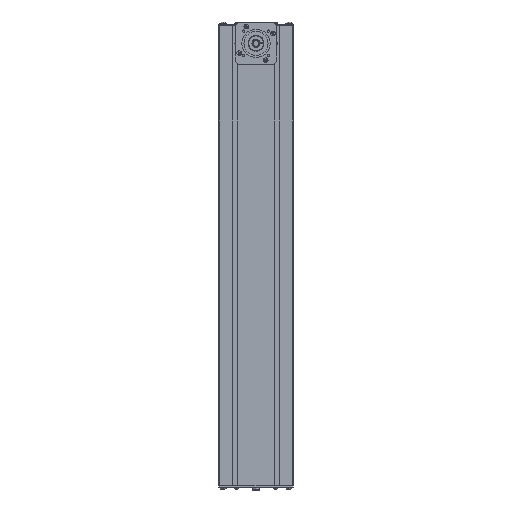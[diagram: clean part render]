
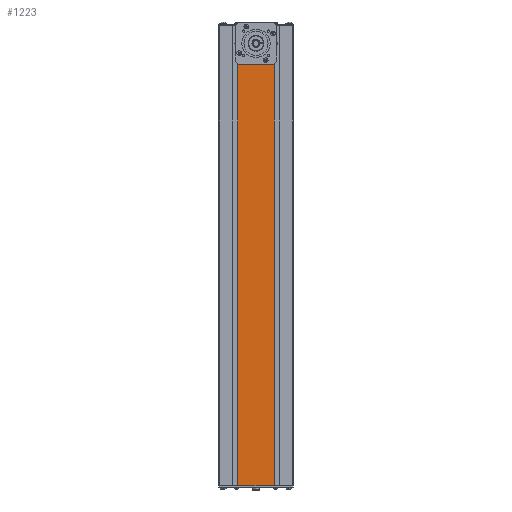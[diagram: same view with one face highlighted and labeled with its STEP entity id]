
A CAD part, front view. The second image highlights one B-rep face of the part: STEP entity #1223.
In plain terms, the highlighted planar face has unit normal (0, -1, 0).
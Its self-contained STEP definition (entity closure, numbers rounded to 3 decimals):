
#371 = EDGE_CURVE ( 'NONE', #35767, #71398, #74274, .T. ) ;
#415 = ORIENTED_EDGE ( 'NONE', *, *, #44515, .F. ) ;
#604 = AXIS2_PLACEMENT_3D ( 'NONE', #58166, #33646, #76738 ) ;
#1223 = ADVANCED_FACE ( 'NONE', ( #37323, #20967, #6510, #4618, #68207, #51799 ), #8905, .T. ) ;
#1279 = EDGE_LOOP ( 'NONE', ( #42935, #32923 ) ) ;
#2020 = CARTESIAN_POINT ( 'NONE',  ( -39.95, 0., -497. ) ) ;
#2255 = CARTESIAN_POINT ( 'NONE',  ( 30.05, 0., 489.05 ) ) ;
#3611 = DIRECTION ( 'NONE',  ( 0., 0., -1. ) ) ;
#4618 = FACE_BOUND ( 'NONE', #41595, .T. ) ;
#5099 = CARTESIAN_POINT ( 'NONE',  ( -30.05, 0., 489.05 ) ) ;
#6321 = EDGE_CURVE ( 'NONE', #37317, #72720, #79158, .T. ) ;
#6510 = FACE_BOUND ( 'NONE', #43114, .T. ) ;
#6987 = CARTESIAN_POINT ( 'NONE',  ( -39.95, 0., 497. ) ) ;
#7868 = CARTESIAN_POINT ( 'NONE',  ( 30.05, 0., 428.95 ) ) ;
#8193 = DIRECTION ( 'NONE',  ( 0., 0., 1. ) ) ;
#8425 = DIRECTION ( 'NONE',  ( 0., 0., -1. ) ) ;
#8587 = LINE ( 'NONE', #20086, #41255 ) ;
#8905 = PLANE ( 'NONE',  #604 ) ;
#9861 = ORIENTED_EDGE ( 'NONE', *, *, #25204, .F. ) ;
#10977 = EDGE_CURVE ( 'NONE', #37317, #16120, #45201, .T. ) ;
#10994 = EDGE_CURVE ( 'NONE', #49055, #39812, #37480, .T. ) ;
#11272 = DIRECTION ( 'NONE',  ( 0., 0., -1. ) ) ;
#14074 = DIRECTION ( 'NONE',  ( 0., 0., -1. ) ) ;
#14178 = DIRECTION ( 'NONE',  ( 0., -1., 0. ) ) ;
#14968 = LINE ( 'NONE', #25679, #31321 ) ;
#15195 = AXIS2_PLACEMENT_3D ( 'NONE', #54105, #17232, #60325 ) ;
#15340 = VERTEX_POINT ( 'NONE', #42592 ) ;
#16120 = VERTEX_POINT ( 'NONE', #6987 ) ;
#17232 = DIRECTION ( 'NONE',  ( 0., -1., 0. ) ) ;
#17568 = ORIENTED_EDGE ( 'NONE', *, *, #371, .F. ) ;
#17894 = CIRCLE ( 'NONE', #21767, 2.5 ) ;
#19657 = CARTESIAN_POINT ( 'NONE',  ( 30.05, 0., 489.05 ) ) ;
#20086 = CARTESIAN_POINT ( 'NONE',  ( 0., 0., 497. ) ) ;
#20772 = DIRECTION ( 'NONE',  ( 0., -1., 0. ) ) ;
#20812 = CARTESIAN_POINT ( 'NONE',  ( -30.05, 0., 428.95 ) ) ;
#20967 = FACE_BOUND ( 'NONE', #1279, .T. ) ;
#21767 = AXIS2_PLACEMENT_3D ( 'NONE', #7868, #50933, #14074 ) ;
#22780 = EDGE_CURVE ( 'NONE', #31427, #64907, #67286, .T. ) ;
#24530 = EDGE_LOOP ( 'NONE', ( #9861, #77617, #27341, #27173 ) ) ;
#24908 = EDGE_CURVE ( 'NONE', #59970, #69248, #62655, .T. ) ;
#25204 = EDGE_CURVE ( 'NONE', #16120, #60922, #8587, .T. ) ;
#25679 = CARTESIAN_POINT ( 'NONE',  ( 39.95, 0., -497. ) ) ;
#25809 = DIRECTION ( 'NONE',  ( 0., 0., -1. ) ) ;
#26839 = DIRECTION ( 'NONE',  ( 1., 0., 0. ) ) ;
#27012 = DIRECTION ( 'NONE',  ( 0., 0., -1. ) ) ;
#27173 = ORIENTED_EDGE ( 'NONE', *, *, #64949, .T. ) ;
#27341 = ORIENTED_EDGE ( 'NONE', *, *, #6321, .T. ) ;
#28219 = EDGE_CURVE ( 'NONE', #71398, #35767, #32005, .T. ) ;
#28434 = CARTESIAN_POINT ( 'NONE',  ( -30.05, 0., 486.55 ) ) ;
#29101 = AXIS2_PLACEMENT_3D ( 'NONE', #20812, #63894, #27012 ) ;
#29963 = CARTESIAN_POINT ( 'NONE',  ( 30.05, 0., 486.55 ) ) ;
#30060 = VECTOR ( 'NONE', #26839, 1000. ) ;
#30185 = CIRCLE ( 'NONE', #15195, 35. ) ;
#30286 = AXIS2_PLACEMENT_3D ( 'NONE', #57660, #20772, #63850 ) ;
#31321 = VECTOR ( 'NONE', #74980, 1000. ) ;
#31328 = CARTESIAN_POINT ( 'NONE',  ( 30.05, 0., 431.45 ) ) ;
#31427 = VERTEX_POINT ( 'NONE', #71234 ) ;
#32005 = CIRCLE ( 'NONE', #60321, 2.5 ) ;
#32590 = CARTESIAN_POINT ( 'NONE',  ( -30.05, 0., 428.95 ) ) ;
#32923 = ORIENTED_EDGE ( 'NONE', *, *, #24908, .F. ) ;
#33308 = CARTESIAN_POINT ( 'NONE',  ( 39.95, 0., 497. ) ) ;
#33646 = DIRECTION ( 'NONE',  ( 0., -1., 0. ) ) ;
#34429 = AXIS2_PLACEMENT_3D ( 'NONE', #2255, #45249, #8425 ) ;
#35767 = VERTEX_POINT ( 'NONE', #28434 ) ;
#36027 = VERTEX_POINT ( 'NONE', #45334 ) ;
#36031 = CARTESIAN_POINT ( 'NONE',  ( 30.05, 0., 491.55 ) ) ;
#37317 = VERTEX_POINT ( 'NONE', #66456 ) ;
#37323 = FACE_BOUND ( 'NONE', #37923, .T. ) ;
#37480 = CIRCLE ( 'NONE', #29101, 2.5 ) ;
#37923 = EDGE_LOOP ( 'NONE', ( #17568, #53233 ) ) ;
#37943 = ORIENTED_EDGE ( 'NONE', *, *, #10994, .F. ) ;
#38761 = DIRECTION ( 'NONE',  ( 0., 0., -1. ) ) ;
#39812 = VERTEX_POINT ( 'NONE', #48827 ) ;
#40122 = AXIS2_PLACEMENT_3D ( 'NONE', #51042, #14178, #57236 ) ;
#40340 = DIRECTION ( 'NONE',  ( 0., -1., 0. ) ) ;
#40952 = CIRCLE ( 'NONE', #30286, 35. ) ;
#41255 = VECTOR ( 'NONE', #63152, 1000. ) ;
#41595 = EDGE_LOOP ( 'NONE', ( #37943, #415 ) ) ;
#42052 = ORIENTED_EDGE ( 'NONE', *, *, #56004, .F. ) ;
#42408 = AXIS2_PLACEMENT_3D ( 'NONE', #19657, #62714, #25809 ) ;
#42425 = EDGE_LOOP ( 'NONE', ( #42052, #61675 ) ) ;
#42592 = CARTESIAN_POINT ( 'NONE',  ( 0., 0., 424. ) ) ;
#42935 = ORIENTED_EDGE ( 'NONE', *, *, #49470, .F. ) ;
#43114 = EDGE_LOOP ( 'NONE', ( #61281, #71748 ) ) ;
#44515 = EDGE_CURVE ( 'NONE', #39812, #49055, #79637, .T. ) ;
#45201 = LINE ( 'NONE', #2020, #47088 ) ;
#45249 = DIRECTION ( 'NONE',  ( 0., -1., 0. ) ) ;
#45334 = CARTESIAN_POINT ( 'NONE',  ( 0., 0., 494. ) ) ;
#46277 = CARTESIAN_POINT ( 'NONE',  ( -30.05, 0., 491.55 ) ) ;
#47088 = VECTOR ( 'NONE', #8193, 1000. ) ;
#47795 = AXIS2_PLACEMENT_3D ( 'NONE', #77284, #40340, #3611 ) ;
#48077 = DIRECTION ( 'NONE',  ( 0., -1., 0. ) ) ;
#48827 = CARTESIAN_POINT ( 'NONE',  ( -30.05, 0., 431.45 ) ) ;
#49055 = VERTEX_POINT ( 'NONE', #69121 ) ;
#49470 = EDGE_CURVE ( 'NONE', #69248, #59970, #59308, .T. ) ;
#49475 = EDGE_CURVE ( 'NONE', #36027, #15340, #40952, .T. ) ;
#50933 = DIRECTION ( 'NONE',  ( 0., -1., 0. ) ) ;
#51042 = CARTESIAN_POINT ( 'NONE',  ( -30.05, 0., 489.05 ) ) ;
#51799 = FACE_OUTER_BOUND ( 'NONE', #24530, .T. ) ;
#53233 = ORIENTED_EDGE ( 'NONE', *, *, #28219, .F. ) ;
#54105 = CARTESIAN_POINT ( 'NONE',  ( 0., 0., 459. ) ) ;
#56004 = EDGE_CURVE ( 'NONE', #15340, #36027, #30185, .T. ) ;
#57236 = DIRECTION ( 'NONE',  ( 0., 0., -1. ) ) ;
#57507 = CARTESIAN_POINT ( 'NONE',  ( 0., 0., -497. ) ) ;
#57660 = CARTESIAN_POINT ( 'NONE',  ( 0., 0., 459. ) ) ;
#58166 = CARTESIAN_POINT ( 'NONE',  ( 0., 0., -497. ) ) ;
#59308 = CIRCLE ( 'NONE', #34429, 2.5 ) ;
#59970 = VERTEX_POINT ( 'NONE', #36031 ) ;
#60321 = AXIS2_PLACEMENT_3D ( 'NONE', #5099, #48077, #11272 ) ;
#60325 = DIRECTION ( 'NONE',  ( 0., 0., -1. ) ) ;
#60922 = VERTEX_POINT ( 'NONE', #33308 ) ;
#61281 = ORIENTED_EDGE ( 'NONE', *, *, #22780, .F. ) ;
#61675 = ORIENTED_EDGE ( 'NONE', *, *, #49475, .F. ) ;
#61911 = CARTESIAN_POINT ( 'NONE',  ( 39.95, 0., -497. ) ) ;
#62655 = CIRCLE ( 'NONE', #42408, 2.5 ) ;
#62714 = DIRECTION ( 'NONE',  ( 0., -1., 0. ) ) ;
#63152 = DIRECTION ( 'NONE',  ( 1., 0., 0. ) ) ;
#63850 = DIRECTION ( 'NONE',  ( 0., 0., -1. ) ) ;
#63894 = DIRECTION ( 'NONE',  ( 0., -1., 0. ) ) ;
#64907 = VERTEX_POINT ( 'NONE', #31328 ) ;
#64949 = EDGE_CURVE ( 'NONE', #72720, #60922, #14968, .T. ) ;
#65485 = AXIS2_PLACEMENT_3D ( 'NONE', #32590, #75704, #38761 ) ;
#66456 = CARTESIAN_POINT ( 'NONE',  ( -39.95, 0., -497. ) ) ;
#67286 = CIRCLE ( 'NONE', #47795, 2.5 ) ;
#68207 = FACE_BOUND ( 'NONE', #42425, .T. ) ;
#69121 = CARTESIAN_POINT ( 'NONE',  ( -30.05, 0., 426.45 ) ) ;
#69248 = VERTEX_POINT ( 'NONE', #29963 ) ;
#71198 = EDGE_CURVE ( 'NONE', #64907, #31427, #17894, .T. ) ;
#71234 = CARTESIAN_POINT ( 'NONE',  ( 30.05, 0., 426.45 ) ) ;
#71398 = VERTEX_POINT ( 'NONE', #46277 ) ;
#71748 = ORIENTED_EDGE ( 'NONE', *, *, #71198, .F. ) ;
#72720 = VERTEX_POINT ( 'NONE', #61911 ) ;
#74274 = CIRCLE ( 'NONE', #40122, 2.5 ) ;
#74980 = DIRECTION ( 'NONE',  ( 0., 0., 1. ) ) ;
#75704 = DIRECTION ( 'NONE',  ( 0., -1., 0. ) ) ;
#76738 = DIRECTION ( 'NONE',  ( 0., 0., -1. ) ) ;
#77284 = CARTESIAN_POINT ( 'NONE',  ( 30.05, 0., 428.95 ) ) ;
#77617 = ORIENTED_EDGE ( 'NONE', *, *, #10977, .F. ) ;
#79158 = LINE ( 'NONE', #57507, #30060 ) ;
#79637 = CIRCLE ( 'NONE', #65485, 2.5 ) ;
